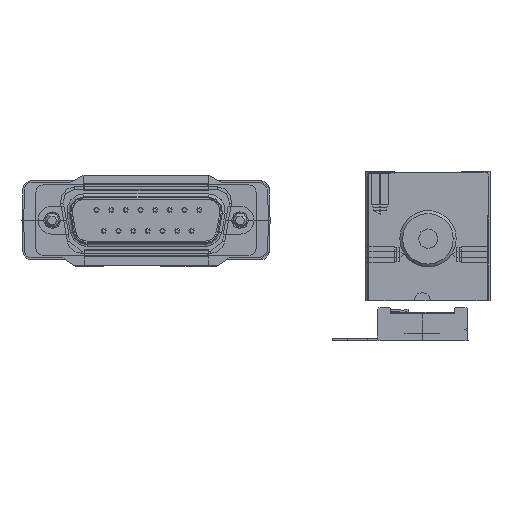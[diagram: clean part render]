
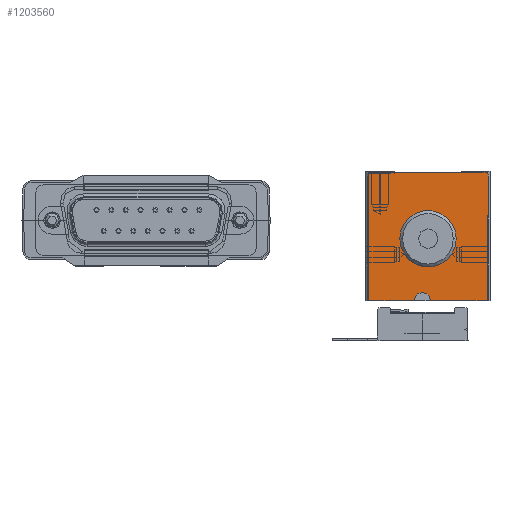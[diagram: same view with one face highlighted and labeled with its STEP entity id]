
A CAD part, front view. The second image highlights one B-rep face of the part: STEP entity #1203560.
In plain terms, the highlighted planar face has unit normal (0, -1, 0) as drawn and (1, 0, 0) by its records, which use the part's own axes.
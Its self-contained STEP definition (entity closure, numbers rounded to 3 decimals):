
#1194880=CARTESIAN_POINT('',(40.,22.,0.));
#1194890=DIRECTION('',(0.,-1.,0.));
#1194900=VECTOR('',#1194890,1.);
#1194910=LINE('',#1194880,#1194900);
#1194920=CARTESIAN_POINT('',(40.,5.,0.));
#1194930=VERTEX_POINT('',#1194920);
#1194940=CARTESIAN_POINT('',(40.,0.5,0.));
#1194950=VERTEX_POINT('',#1194940);
#1194960=EDGE_CURVE('',#1194930,#1194950,#1194910,.T.);
#1197830=CARTESIAN_POINT('',(40.,0.5,-23.));
#1197840=VERTEX_POINT('',#1197830);
#1197870=CARTESIAN_POINT('',(40.,0.,-23.));
#1197880=DIRECTION('',(0.,1.,0.));
#1197890=VECTOR('',#1197880,1.);
#1197900=LINE('',#1197870,#1197890);
#1197910=CARTESIAN_POINT('',(40.,8.6,-23.));
#1197920=VERTEX_POINT('',#1197910);
#1197930=EDGE_CURVE('',#1197840,#1197920,#1197900,.T.);
#1198150=CARTESIAN_POINT('',(40.,11.4,-23.));
#1198160=VERTEX_POINT('',#1198150);
#1198190=CARTESIAN_POINT('',(40.,21.5,-23.));
#1198200=VERTEX_POINT('',#1198190);
#1198210=EDGE_CURVE('',#1198160,#1198200,#1197900,.T.);
#1200130=CARTESIAN_POINT('',(40.,11.4,0.));
#1200140=DIRECTION('',(0.,0.,1.));
#1200150=VECTOR('',#1200140,1.);
#1200160=LINE('',#1200130,#1200150);
#1200170=CARTESIAN_POINT('',(40.,11.4,-22.8));
#1200180=VERTEX_POINT('',#1200170);
#1200190=EDGE_CURVE('',#1198160,#1200180,#1200160,.T.);
#1200860=CARTESIAN_POINT('',(40.,9.8,-22.8));
#1200870=DIRECTION('',(-1.,0.,0.));
#1200880=DIRECTION('',(0.,1.,0.));
#1200890=AXIS2_PLACEMENT_3D('',#1200860,#1200870,#1200880);
#1200900=CIRCLE('',#1200890,1.2);
#1200910=CARTESIAN_POINT('',(40.,8.6,-22.8));
#1200920=VERTEX_POINT('',#1200910);
#1200930=CARTESIAN_POINT('',(40.,9.8,-21.6));
#1200940=VERTEX_POINT('',#1200930);
#1200950=EDGE_CURVE('',#1200920,#1200940,#1200900,.T.);
#1201180=CARTESIAN_POINT('',(40.,0.,-21.6));
#1201190=DIRECTION('',(0.,-1.,0.));
#1201200=VECTOR('',#1201190,1.);
#1201210=LINE('',#1201180,#1201200);
#1201220=CARTESIAN_POINT('',(40.,10.2,-21.6));
#1201230=VERTEX_POINT('',#1201220);
#1201240=EDGE_CURVE('',#1201230,#1200940,#1201210,.T.);
#1201440=CARTESIAN_POINT('',(40.,10.2,-22.8));
#1201450=DIRECTION('',(-1.,0.,0.));
#1201460=DIRECTION('',(0.,1.,0.));
#1201470=AXIS2_PLACEMENT_3D('',#1201440,#1201450,#1201460);
#1201480=CIRCLE('',#1201470,1.2);
#1201490=EDGE_CURVE('',#1201230,#1200180,#1201480,.T.);
#1201620=CARTESIAN_POINT('',(40.,8.6,0.));
#1201630=DIRECTION('',(0.,0.,-1.));
#1201640=VECTOR('',#1201630,1.);
#1201650=LINE('',#1201620,#1201640);
#1201660=EDGE_CURVE('',#1200920,#1197920,#1201650,.T.);
#1201770=CARTESIAN_POINT('',(40.,5.846,-7.9));
#1201780=DIRECTION('',(0.,-1.,0.));
#1201790=VECTOR('',#1201780,1.);
#1201800=LINE('',#1201770,#1201790);
#1201810=CARTESIAN_POINT('',(40.,21.8,-7.9));
#1201820=VERTEX_POINT('',#1201810);
#1201830=CARTESIAN_POINT('',(40.,21.5,-7.9));
#1201840=VERTEX_POINT('',#1201830);
#1201850=EDGE_CURVE('',#1201820,#1201840,#1201800,.T.);
#1202580=CARTESIAN_POINT('',(40.,0.1,-0.8))
;
#1202590=DIRECTION('',(1.,-0.,0.));
#1202600=DIRECTION('',(0.,0.,-1.));
#1202610=AXIS2_PLACEMENT_3D('',#1202580,#1202590,#1202600);
#1202620=PLANE('',#1202610);
#1202630=CARTESIAN_POINT('',(40.,20.9,-1.1));
#1202640=DIRECTION('',(1.,0.,0.));
#1202650=DIRECTION('',(0.,-1.,0.));
#1202660=AXIS2_PLACEMENT_3D('',#1202630,#1202640,#1202650);
#1202670=CIRCLE('',#1202660,0.9);
#1202680=CARTESIAN_POINT('',(40.,21.8,-1.1));
#1202690=VERTEX_POINT('',#1202680);
#1202700=CARTESIAN_POINT('',(40.,20.9,-0.2));
#1202710=VERTEX_POINT('',#1202700);
#1202720=EDGE_CURVE('',#1202690,#1202710,#1202670,.T.);
#1202730=ORIENTED_EDGE('',*,*,#1202720,.T.);
#1202740=CARTESIAN_POINT('',(40.,21.8,-0.8));
#1202750=DIRECTION('',(0.,0.,1.));
#1202760=VECTOR('',#1202750,1.);
#1202770=LINE('',#1202740,#1202760);
#1202780=EDGE_CURVE('',#1201820,#1202690,#1202770,.T.);
#1202790=ORIENTED_EDGE('',*,*,#1202780,.T.);
#1202800=ORIENTED_EDGE('',*,*,#1201850,.F.);
#1202810=CARTESIAN_POINT('',(40.,21.5,0.));
#1202820=DIRECTION('',(0.,0.,1.));
#1202830=VECTOR('',#1202820,1.);
#1202840=LINE('',#1202810,#1202830);
#1202850=CARTESIAN_POINT('',(40.,21.5,-8.));
#1202860=VERTEX_POINT('',#1202850);
#1202870=EDGE_CURVE('',#1202860,#1201840,#1202840,.T.);
#1202880=ORIENTED_EDGE('',*,*,#1202870,.T.);
#1202890=CARTESIAN_POINT('',(40.,21.5,-15.5));
#1202900=DIRECTION('',(0.,0.,-1.));
#1202910=VECTOR('',#1202900,1.);
#1202920=LINE('',#1202890,#1202910);
#1202930=EDGE_CURVE('',#1202860,#1198200,#1202920,.T.);
#1202940=ORIENTED_EDGE('',*,*,#1202930,.F.);
#1202950=ORIENTED_EDGE('',*,*,#1198210,.T.);
#1202960=ORIENTED_EDGE('',*,*,#1200190,.F.);
#1202970=ORIENTED_EDGE('',*,*,#1201490,.T.);
#1202980=ORIENTED_EDGE('',*,*,#1201240,.F.);
#1202990=ORIENTED_EDGE('',*,*,#1200950,.T.);
#1203000=ORIENTED_EDGE('',*,*,#1201660,.F.);
#1203010=ORIENTED_EDGE('',*,*,#1197930,.T.);
#1203020=CARTESIAN_POINT('',(40.,0.5,-11.5));
#1203030=DIRECTION('',(0.,0.,-1.));
#1203040=VECTOR('',#1203030,1.);
#1203050=LINE('',#1203020,#1203040);
#1203060=EDGE_CURVE('',#1194950,#1197840,#1203050,.T.);
#1203070=ORIENTED_EDGE('',*,*,#1203060,.T.);
#1203080=ORIENTED_EDGE('',*,*,#1194960,.T.);
#1203090=CARTESIAN_POINT('',(40.,5.,0.));
#1203100=DIRECTION('',(0.,0.,-1.));
#1203110=VECTOR('',#1203100,1.);
#1203120=LINE('',#1203090,#1203110);
#1203130=CARTESIAN_POINT('',(40.,5.,-0.5));
#1203140=VERTEX_POINT('',#1203130);
#1203150=EDGE_CURVE('',#1194930,#1203140,#1203120,.T.);
#1203160=ORIENTED_EDGE('',*,*,#1203150,.F.);
#1203170=CARTESIAN_POINT('',(40.,0.,-0.5));
#1203180=DIRECTION('',(0.,-1.,0.));
#1203190=VECTOR('',#1203180,1.);
#1203200=LINE('',#1203170,#1203190);
#1203210=CARTESIAN_POINT('',(40.,5.05,-0.5));
#1203220=VERTEX_POINT('',#1203210);
#1203230=EDGE_CURVE('',#1203220,#1203140,#1203200,.T.);
#1203240=ORIENTED_EDGE('',*,*,#1203230,.T.);
#1203250=CARTESIAN_POINT('',(40.,5.05,-0.8));
#1203260=DIRECTION('',(0.,0.,1.));
#1203270=VECTOR('',#1203260,1.);
#1203280=LINE('',#1203250,#1203270);
#1203290=CARTESIAN_POINT('',(40.,5.05,-0.2));
#1203300=VERTEX_POINT('',#1203290);
#1203310=EDGE_CURVE('',#1203220,#1203300,#1203280,.T.);
#1203320=ORIENTED_EDGE('',*,*,#1203310,.F.);
#1203330=CARTESIAN_POINT('',(40.,5.646,-0.2));
#1203340=DIRECTION('',(0.,1.,0.));
#1203350=VECTOR('',#1203340,1.);
#1203360=LINE('',#1203330,#1203350);
#1203370=EDGE_CURVE('',#1203300,#1202710,#1203360,.T.);
#1203380=ORIENTED_EDGE('',*,*,#1203370,.F.);
#1203390=EDGE_LOOP('',(#1203380,#1203320,#1203240,#1203160,#1203080,
#1203070,#1203010,#1203000,#1202990,#1202980,#1202970,#1202960,#1202950,
#1202940,#1202880,#1202800,#1202790,#1202730));
#1203400=FACE_OUTER_BOUND('',#1203390,.T.);
#1203410=CARTESIAN_POINT('',(40.,11.,-12.));
#1203420=DIRECTION('',(1.,0.,0.));
#1203430=DIRECTION('',(0.,1.,0.));
#1203440=AXIS2_PLACEMENT_3D('',#1203410,#1203420,#1203430);
#1203450=CIRCLE('',#1203440,5.);
#1203460=CARTESIAN_POINT('',(40.,16.,-12.));
#1203470=VERTEX_POINT('',#1203460);
#1203480=CARTESIAN_POINT('',(40.,6.,-12.));
#1203490=VERTEX_POINT('',#1203480);
#1203500=EDGE_CURVE('',#1203470,#1203490,#1203450,.T.);
#1203510=ORIENTED_EDGE('',*,*,#1203500,.F.);
#1203520=EDGE_CURVE('',#1203490,#1203470,#1203450,.T.);
#1203530=ORIENTED_EDGE('',*,*,#1203520,.F.);
#1203540=EDGE_LOOP('',(#1203530,#1203510));
#1203550=FACE_BOUND('',#1203540,.T.);
#1203560=ADVANCED_FACE('',(#1203400,#1203550),#1202620,.T.);
